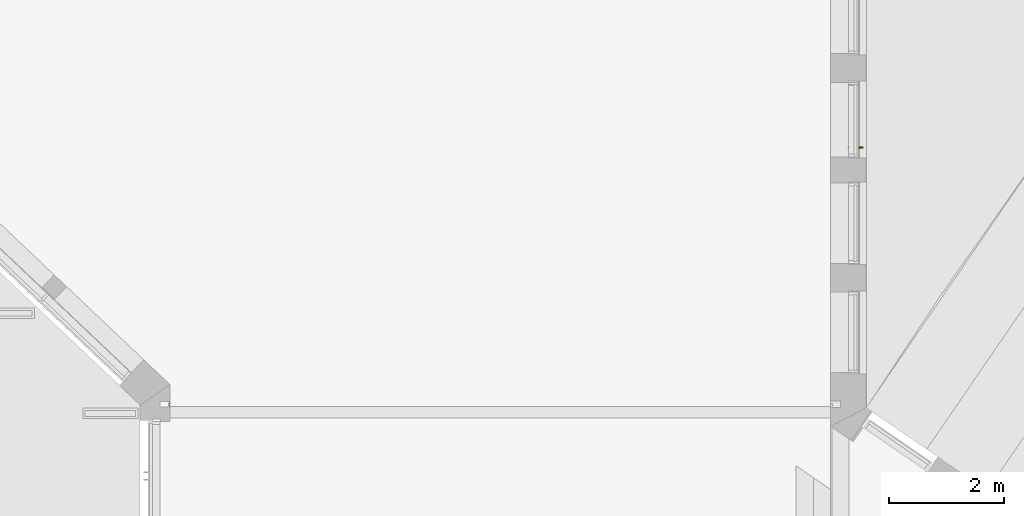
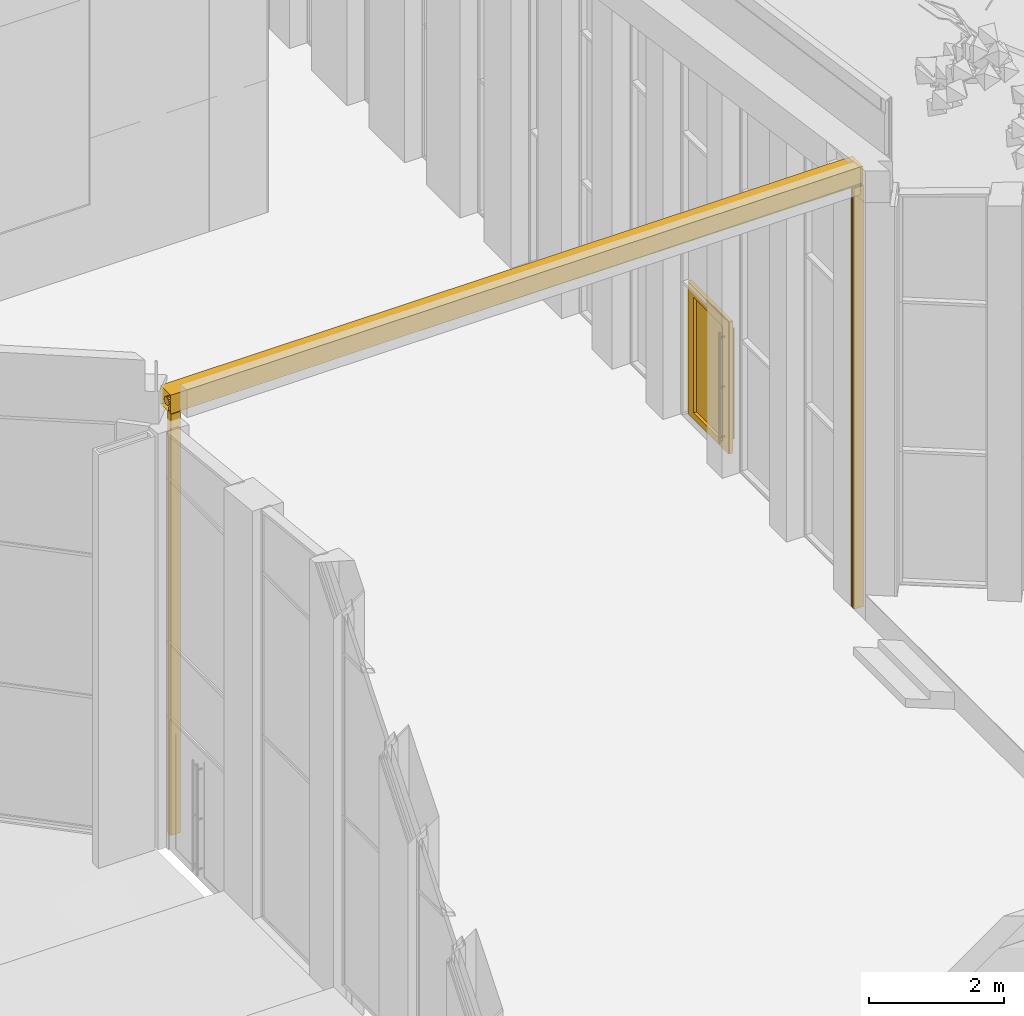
# One storey, part 159 of 246: 2 doors, 1 element without a shape of its own.
"""IFC2X3 building model written with IfcOpenShell, lengths in millimetres."""

from ifc_helpers import new_model, entity, si_unit, converted_unit, derived_unit, money_unit, direction, frame, origin_with_axes, place, context, subcontext, project, spatial, open_shell, faceted_brep, surface_model, material, material_list, type_object, element, aggregate, save


model = new_model("IFC2X3")

# Units and contexts
model_context = context("Model", 3, precision=0.01, world=origin_with_axes(), true_north=direction((0.0, 1.0)))
body_context = subcontext(model_context, "Body", "Model", "MODEL_VIEW")
ifc_project = project(units=[si_unit("LENGTHUNIT", "METRE", prefix="MILLI"), si_unit("AREAUNIT", "SQUARE_METRE"), si_unit("VOLUMEUNIT", "CUBIC_METRE"), converted_unit("PLANEANGLEUNIT", "DEGREE", entity("IfcPlaneAngleMeasure", 0.0174532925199), si_unit("PLANEANGLEUNIT", "RADIAN"), dimensions=[0, 0, 0, 0, 0, 0, 0]), si_unit("SOLIDANGLEUNIT", "STERADIAN"), money_unit("EUR"), converted_unit("TIMEUNIT", "Year", entity("IfcTimeMeasure", 31556926.0), si_unit("TIMEUNIT", "SECOND"), dimensions=[0, 0, 1, 0, 0, 0, 0]), si_unit("MASSUNIT", "GRAM", prefix="KILO"), si_unit("THERMODYNAMICTEMPERATUREUNIT", "DEGREE_CELSIUS"), si_unit("LUMINOUSINTENSITYUNIT", "LUMEN"), si_unit("ENERGYUNIT", "JOULE", prefix="MEGA"), derived_unit("THERMALCONDUCTANCEUNIT", [(si_unit("POWERUNIT", "WATT"), 1), (si_unit("LENGTHUNIT", "METRE"), -1), (si_unit("THERMODYNAMICTEMPERATUREUNIT", "KELVIN"), -1)]), derived_unit("SPECIFICHEATCAPACITYUNIT", [(si_unit("ENERGYUNIT", "JOULE"), 1), (si_unit("MASSUNIT", "GRAM", prefix="KILO"), -1), (si_unit("THERMODYNAMICTEMPERATUREUNIT", "KELVIN"), -1)]), derived_unit("MASSDENSITYUNIT", [(si_unit("MASSUNIT", "GRAM", prefix="KILO"), 1), (si_unit("VOLUMEUNIT", "CUBIC_METRE"), -1)])], contexts=[model_context])

# Site, building, storey
site_placement = place(None, origin_with_axes())
site = spatial("IfcSite", under=ifc_project, at=site_placement, Name="L.Koidula tn 11b", CompositionType="ELEMENT")
building_placement = place(site_placement, origin_with_axes())
building = spatial("IfcBuilding", under=site, at=building_placement, Name="Rakvere Riigigümnaasium", CompositionType="ELEMENT")
storey_placement = place(building_placement, origin_with_axes())
storey = spatial("IfcBuildingStorey", under=building, at=storey_placement, Name="1.korrus 0,00", CompositionType="ELEMENT", Elevation=0.0)

# Curtain wall, door
curtain_wall_type = type_object("IfcCurtainWallType", Name="Curtain Wall Type", PredefinedType="NOTDEFINED")
curtain_wall_placement = place(storey_placement, frame((47434.0004775, 49050.4555635, 0.0), z_axis=(0.0, 0.0, 1.0), x_axis=(1.0, 0.0, 0.0)))
curtain_wall = element("IfcCurtainWall", 1, at=curtain_wall_placement, inside=storey, type_object=curtain_wall_type, Name="KLF-07-03")
ifc_material_1 = material(Name="Alumiiniumprofiil (RAL 7021)")
ifc_material_2 = material(Name="Klaaspakett 3x")
ifc_material_3 = material(Name="teras_must")
ifc_material_4 = material(Name="GENERIC - STRUCTURAL")
ifc_material_list = material_list([ifc_material_1, ifc_material_2, ifc_material_3, ifc_material_4])
door_style_1 = type_object("IfcDoorStyle", Name="1226 x 2351 x 54", ConstructionType="NOTDEFINED", OperationType="NOTDEFINED", ParameterTakesPrecedence=False, Sizeable=False)
door_1_placement = place(curtain_wall_placement, frame((0.0, 121.999974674, 960.0), z_axis=(0.0, 0.0, 1.0), x_axis=(0.0, 1.0, 0.0)))
door_1 = element("IfcDoor", 2, at=door_1_placement, type_object=door_style_1, material=ifc_material_list, Name="KLF-07-VU-1", ObjectType="DOOR", context=body_context, shape_type="SurfaceModel", body=[
    surface_model("IfcShellBasedSurfaceModel", [(-721.999924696, 38.0, -960.0), (-721.999924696, 38.0, 1415.0), (-668.999924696, 38.0, 1362.0), (-668.999924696, 38.0, -960.0)], [open_shell([[[0, 1, 2, 3]]])]),
    surface_model("IfcShellBasedSurfaceModel", [(477.999968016, 38.0, 1415.0), (424.999968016, 38.0, 1362.0), (-668.999924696, 38.0, 1362.0), (-721.999924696, 38.0, 1415.0)], [open_shell([[[0, 1, 2, 3]]])]),
    surface_model("IfcShellBasedSurfaceModel", [(477.999968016, 38.0, -960.0), (424.999968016, 38.0, -960.0), (424.999968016, 38.0, 1362.0), (477.999968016, 38.0, 1415.0)], [open_shell([[[0, 1, 2, 3]]])]),
    faceted_brep([(-721.999924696, 38.0, -960.0), (-721.999924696, -37.0, -960.0), (-721.999924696, -37.0, 1415.0), (-721.999924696, 38.0, 1415.0), (-668.999924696, 38.0, -960.0), (-668.999924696, -37.0, -960.0), (-668.999924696, -37.0, 1362.0), (-668.999924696, 38.0, 1362.0)], [[[0, 1, 2, 3]], [[4, 5, 1, 0]], [[1, 5, 6, 2]], [[3, 2, 6, 7]], [[0, 3, 7, 4]], [[7, 6, 5, 4]]]),
    faceted_brep([(477.999968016, 38.0, 1415.0), (477.999968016, -37.0, 1415.0), (424.999968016, -37.0, 1362.0), (424.999968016, 38.0, 1362.0), (-721.999924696, 38.0, 1415.0), (-721.999924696, -37.0, 1415.0), (-668.999924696, -37.0, 1362.0), (-668.999924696, 38.0, 1362.0)], [[[0, 1, 2, 3]], [[4, 5, 1, 0]], [[1, 5, 6, 2]], [[3, 2, 6, 7]], [[0, 3, 7, 4]], [[7, 6, 5, 4]]]),
    faceted_brep([(477.999968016, 38.0, -960.0), (477.999968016, -37.0, -960.0), (424.999968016, -37.0, -960.0), (424.999968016, 38.0, -960.0), (477.999968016, 38.0, 1415.0), (477.999968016, -37.0, 1415.0), (424.999968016, -37.0, 1362.0), (424.999968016, 38.0, 1362.0)], [[[0, 1, 2, 3]], [[4, 5, 1, 0]], [[1, 5, 6, 2]], [[3, 2, 6, 7]], [[0, 3, 7, 4]], [[7, 6, 5, 4]]]),
    faceted_brep([(-734.999924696, 27.0, -960.0), (-734.999924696, -27.0, -960.0), (-734.999924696, -27.0, 1428.0), (-734.999924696, 27.0, 1428.0), (-721.999924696, 27.0, -960.0), (-721.999924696, -27.0, -960.0), (-721.999924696, -27.0, 1415.0), (-721.999924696, 27.0, 1415.0)], [[[0, 1, 2, 3]], [[4, 5, 1, 0]], [[1, 5, 6, 2]], [[3, 2, 6, 7]], [[0, 3, 7, 4]], [[7, 6, 5, 4]]]),
    faceted_brep([(-734.999924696, 27.0, 1428.0), (-734.999924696, -27.0, 1428.0), (490.999968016, -27.0, 1428.0), (490.999968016, 27.0, 1428.0), (-721.999924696, 27.0, 1415.0), (-721.999924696, -27.0, 1415.0), (477.999968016, -27.0, 1415.0), (477.999968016, 27.0, 1415.0)], [[[0, 1, 2, 3]], [[4, 5, 1, 0]], [[1, 5, 6, 2]], [[3, 2, 6, 7]], [[0, 3, 7, 4]], [[7, 6, 5, 4]]]),
    faceted_brep([(490.999968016, 27.0, 1428.0), (490.999968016, -27.0, 1428.0), (490.999968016, -27.0, -960.0), (490.999968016, 27.0, -960.0), (477.999968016, 27.0, 1415.0), (477.999968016, -27.0, 1415.0), (477.999968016, -27.0, -960.0), (477.999968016, 27.0, -960.0)], [[[0, 1, 2, 3]], [[4, 5, 1, 0]], [[1, 5, 6, 2]], [[3, 2, 6, 7]], [[0, 3, 7, 4]], [[7, 6, 5, 4]]]),
    faceted_brep([(305.999968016, 38.0, -841.0), (305.999968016, -37.0, -841.0), (305.999968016, -37.0, 1243.0), (305.999968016, 38.0, 1243.0), (424.999968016, 38.0, -960.0), (424.999968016, -37.0, -960.0), (424.999968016, -37.0, 1362.0), (424.999968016, 38.0, 1362.0)], [[[0, 1, 2, 3]], [[4, 5, 1, 0]], [[1, 5, 6, 2]], [[3, 2, 6, 7]], [[0, 3, 7, 4]], [[7, 6, 5, 4]]]),
    faceted_brep([(-668.999924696, 38.0, -960.0), (-668.999924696, -37.0, -960.0), (-668.999924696, -37.0, 1362.0), (-668.999924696, 38.0, 1362.0), (-549.999924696, 38.0, -841.0), (-549.999924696, -37.0, -841.0), (-549.999924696, -37.0, 1243.0), (-549.999924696, 38.0, 1243.0)], [[[0, 1, 2, 3]], [[4, 5, 1, 0]], [[1, 5, 6, 2]], [[3, 2, 6, 7]], [[0, 3, 7, 4]], [[7, 6, 5, 4]]]),
    faceted_brep([(-668.999924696, 38.0, -960.0), (-668.999924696, -37.0, -960.0), (-549.999924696, -37.0, -841.0), (-549.999924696, 38.0, -841.0), (424.999968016, 38.0, -960.0), (424.999968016, -37.0, -960.0), (305.999968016, -37.0, -841.0), (305.999968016, 38.0, -841.0)], [[[0, 1, 2, 3]], [[4, 5, 1, 0]], [[1, 5, 6, 2]], [[3, 2, 6, 7]], [[0, 3, 7, 4]], [[7, 6, 5, 4]]]),
    faceted_brep([(424.999968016, 38.0, 1362.0), (424.999968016, -37.0, 1362.0), (305.999968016, -37.0, 1243.0), (305.999968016, 38.0, 1243.0), (-668.999924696, 38.0, 1362.0), (-668.999924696, -37.0, 1362.0), (-549.999924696, -37.0, 1243.0), (-549.999924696, 38.0, 1243.0)], [[[0, 1, 2, 3]], [[4, 5, 1, 0]], [[1, 5, 6, 2]], [[3, 2, 6, 7]], [[0, 3, 7, 4]], [[7, 6, 5, 4]]]),
    faceted_brep([(305.999968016, -11.0, -841.0), (305.999968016, -27.0, -841.0), (-549.999924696, -27.0, -841.0), (-549.999924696, -11.0, -841.0), (305.999968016, -11.0, 1243.0), (305.999968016, -27.0, 1243.0), (-549.999924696, -27.0, 1243.0), (-549.999924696, -11.0, 1243.0)], [[[0, 1, 2, 3]], [[4, 5, 1, 0]], [[1, 5, 6, 2]], [[3, 2, 6, 7]], [[0, 3, 7, 4]], [[7, 6, 5, 4]]]),
    faceted_brep([(-616.990305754, -112.499999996, 1190.0), (-611.499924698, -107.009618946, 1190.0), (-611.499924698, -107.009618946, -810.0), (-616.990305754, -112.499999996, -810.0), (-618.999924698, -119.999999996, 1190.0), (-616.990305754, -127.499999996, 1190.0), (-611.499924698, -132.990381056, 1190.0), (-603.999924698, -134.999999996, 1190.0), (-596.499924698, -132.990381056, 1190.0), (-591.009543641, -127.499999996, 1190.0), (-588.999924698, -119.999999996, 1190.0), (-591.009543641, -112.499999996, 1190.0), (-596.499924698, -107.009618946, 1190.0), (-603.999924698, -104.999999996, 1190.0), (-603.999924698, -104.999999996, -810.0), (-618.999924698, -119.999999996, -810.0), (-596.499924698, -107.009618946, -810.0), (-591.009543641, -112.499999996, -810.0), (-588.999924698, -119.999999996, -810.0), (-591.009543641, -127.499999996, -810.0), (-596.499924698, -132.990381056, -810.0), (-603.999924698, -134.999999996, -810.0), (-611.499924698, -132.990381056, -810.0), (-616.990305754, -127.499999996, -810.0)], [[[0, 1, 2, 3]], [[0, 4, 5, 6, 7, 8, 9, 10, 11, 12, 13, 1]], [[1, 13, 14, 2]], [[15, 3, 2, 14, 16, 17, 18, 19, 20, 21, 22, 23]], [[4, 0, 3, 15]], [[4, 15, 23, 5]], [[6, 5, 23, 22]], [[6, 22, 21, 7]], [[8, 7, 21, 20]], [[9, 8, 20, 19]], [[10, 9, 19, 18]], [[17, 11, 10, 18]], [[12, 11, 17, 16]], [[13, 12, 16, 14]]]),
    faceted_brep([(-591.009543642, -120.0, 1097.5), (-591.009543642, -37.0, 1097.5), (-596.499924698, -37.0, 1102.99038105), (-596.499924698, -120.0, 1102.99038105), (-588.999924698, -37.0, 1090.0), (-588.999924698, -120.0, 1090.0), (-591.009543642, -37.0, 1082.5), (-596.499924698, -37.0, 1077.00961894), (-603.999924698, -37.0, 1075.0), (-611.499924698, -37.0, 1077.00961894), (-616.990305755, -37.0, 1082.5), (-618.999924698, -37.0, 1090.0), (-616.990305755, -37.0, 1097.5), (-611.499924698, -37.0, 1102.99038105), (-603.999924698, -37.0, 1105.0), (-603.999924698, -120.0, 1105.0), (-611.499924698, -120.0, 1102.99038105), (-616.990305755, -120.0, 1097.5), (-618.999924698, -120.0, 1090.0), (-616.990305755, -120.0, 1082.5), (-611.499924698, -120.0, 1077.00961894), (-603.999924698, -120.0, 1075.0), (-596.499924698, -120.0, 1077.00961894), (-591.009543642, -120.0, 1082.5)], [[[0, 1, 2, 3]], [[4, 1, 0, 5]], [[1, 4, 6, 7, 8, 9, 10, 11, 12, 13, 14, 2]], [[2, 14, 15, 3]], [[5, 0, 3, 15, 16, 17, 18, 19, 20, 21, 22, 23]], [[4, 5, 23, 6]], [[6, 23, 22, 7]], [[7, 22, 21, 8]], [[9, 8, 21, 20]], [[10, 9, 20, 19]], [[11, 10, 19, 18]], [[12, 11, 18, 17]], [[13, 12, 17, 16]], [[14, 13, 16, 15]]]),
    faceted_brep([(-616.99030576, -120.0, -717.500000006), (-616.99030576, -37.0, -717.500000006), (-611.499924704, -37.0, -722.990381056), (-611.499924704, -120.0, -722.990381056), (-618.999924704, -37.0, -710.000000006), (-618.999924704, -120.0, -710.000000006), (-616.99030576, -37.0, -702.500000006), (-611.499924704, -37.0, -697.009618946), (-603.999924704, -37.0, -695.000000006), (-596.499924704, -37.0, -697.009618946), (-591.009543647, -37.0, -702.500000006), (-588.999924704, -37.0, -710.000000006), (-591.009543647, -37.0, -717.500000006), (-596.499924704, -37.0, -722.990381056), (-603.999924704, -37.0, -725.000000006), (-603.999924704, -120.0, -725.000000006), (-596.499924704, -120.0, -722.990381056), (-591.009543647, -120.0, -717.500000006), (-588.999924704, -120.0, -710.000000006), (-591.009543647, -120.0, -702.500000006), (-596.499924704, -120.0, -697.009618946), (-603.999924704, -120.0, -695.000000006), (-611.499924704, -120.0, -697.009618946), (-616.99030576, -120.0, -702.500000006)], [[[0, 1, 2, 3]], [[4, 1, 0, 5]], [[1, 4, 6, 7, 8, 9, 10, 11, 12, 13, 14, 2]], [[2, 14, 15, 3]], [[5, 0, 3, 15, 16, 17, 18, 19, 20, 21, 22, 23]], [[4, 5, 23, 6]], [[6, 23, 22, 7]], [[7, 22, 21, 8]], [[9, 8, 21, 20]], [[10, 9, 20, 19]], [[11, 10, 19, 18]], [[12, 11, 18, 17]], [[13, 12, 17, 16]], [[14, 13, 16, 15]]]),
    faceted_brep([(-616.99030576, -120.0, 182.499999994), (-616.99030576, -37.0, 182.499999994), (-611.499924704, -37.0, 177.009618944), (-611.499924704, -120.0, 177.009618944), (-618.999924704, -37.0, 189.999999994), (-618.999924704, -120.0, 189.999999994), (-616.99030576, -37.0, 197.499999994), (-611.499924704, -37.0, 202.990381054), (-603.999924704, -37.0, 204.999999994), (-596.499924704, -37.0, 202.990381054), (-591.009543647, -37.0, 197.499999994), (-588.999924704, -37.0, 189.999999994), (-591.009543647, -37.0, 182.499999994), (-596.499924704, -37.0, 177.009618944), (-603.999924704, -37.0, 174.999999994), (-603.999924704, -120.0, 174.999999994), (-596.499924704, -120.0, 177.009618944), (-591.009543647, -120.0, 182.499999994), (-588.999924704, -120.0, 189.999999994), (-591.009543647, -120.0, 197.499999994), (-596.499924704, -120.0, 202.990381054), (-603.999924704, -120.0, 204.999999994), (-611.499924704, -120.0, 202.990381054), (-616.99030576, -120.0, 197.499999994)], [[[0, 1, 2, 3]], [[4, 1, 0, 5]], [[1, 4, 6, 7, 8, 9, 10, 11, 12, 13, 14, 2]], [[2, 14, 15, 3]], [[5, 0, 3, 15, 16, 17, 18, 19, 20, 21, 22, 23]], [[4, 5, 23, 6]], [[6, 23, 22, 7]], [[7, 22, 21, 8]], [[9, 8, 21, 20]], [[10, 9, 20, 19]], [[11, 10, 19, 18]], [[12, 11, 18, 17]], [[13, 12, 17, 16]], [[14, 13, 16, 15]]]),
    faceted_brep([(-616.990305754, 113.499999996, 1190.0), (-616.990305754, 113.499999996, -810.0), (-611.499924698, 108.009618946, -810.0), (-611.499924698, 108.009618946, 1190.0), (-618.999924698, 120.999999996, 1190.0), (-618.999924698, 120.999999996, -810.0), (-616.990305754, 128.499999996, -810.0), (-611.499924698, 133.990381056, -810.0), (-603.999924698, 135.999999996, -810.0), (-596.499924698, 133.990381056, -810.0), (-591.009543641, 128.499999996, -810.0), (-588.999924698, 120.999999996, -810.0), (-591.009543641, 113.499999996, -810.0), (-596.499924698, 108.009618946, -810.0), (-603.999924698, 105.999999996, -810.0), (-603.999924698, 105.999999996, 1190.0), (-596.499924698, 108.009618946, 1190.0), (-591.009543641, 113.499999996, 1190.0), (-588.999924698, 120.999999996, 1190.0), (-591.009543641, 128.499999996, 1190.0), (-596.499924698, 133.990381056, 1190.0), (-603.999924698, 135.999999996, 1190.0), (-611.499924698, 133.990381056, 1190.0), (-616.990305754, 128.499999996, 1190.0)], [[[0, 1, 2, 3]], [[4, 5, 1, 0]], [[5, 6, 7, 8, 9, 10, 11, 12, 13, 14, 2, 1]], [[3, 2, 14, 15]], [[0, 3, 15, 16, 17, 18, 19, 20, 21, 22, 23, 4]], [[4, 23, 6, 5]], [[22, 7, 6, 23]], [[22, 21, 8, 7]], [[20, 9, 8, 21]], [[19, 10, 9, 20]], [[18, 11, 10, 19]], [[12, 11, 18, 17]], [[16, 13, 12, 17]], [[15, 14, 13, 16]]]),
    faceted_brep([(-591.009543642, 121.0, 1097.5), (-596.499924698, 121.0, 1102.99038105), (-596.499924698, 38.0, 1102.99038105), (-591.009543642, 38.0, 1097.5), (-588.999924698, 121.0, 1090.0), (-591.009543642, 121.0, 1082.5), (-596.499924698, 121.0, 1077.00961894), (-603.999924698, 121.0, 1075.0), (-611.499924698, 121.0, 1077.00961894), (-616.990305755, 121.0, 1082.5), (-618.999924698, 121.0, 1090.0), (-616.990305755, 121.0, 1097.5), (-611.499924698, 121.0, 1102.99038105), (-603.999924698, 121.0, 1105.0), (-603.999924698, 38.0, 1105.0), (-611.499924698, 38.0, 1102.99038105), (-616.990305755, 38.0, 1097.5), (-618.999924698, 38.0, 1090.0), (-616.990305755, 38.0, 1082.5), (-611.499924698, 38.0, 1077.00961894), (-603.999924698, 38.0, 1075.0), (-596.499924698, 38.0, 1077.00961894), (-591.009543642, 38.0, 1082.5), (-588.999924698, 38.0, 1090.0)], [[[0, 1, 2, 3]], [[4, 5, 6, 7, 8, 9, 10, 11, 12, 13, 1, 0]], [[2, 1, 13, 14]], [[3, 2, 14, 15, 16, 17, 18, 19, 20, 21, 22, 23]], [[23, 4, 0, 3]], [[23, 22, 5, 4]], [[22, 21, 6, 5]], [[21, 20, 7, 6]], [[19, 8, 7, 20]], [[18, 9, 8, 19]], [[17, 10, 9, 18]], [[16, 11, 10, 17]], [[15, 12, 11, 16]], [[14, 13, 12, 15]]]),
    faceted_brep([(-616.99030576, 121.0, -717.500000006), (-611.499924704, 121.0, -722.990381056), (-611.499924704, 38.0, -722.990381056), (-616.99030576, 38.0, -717.500000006), (-618.999924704, 121.0, -710.000000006), (-616.99030576, 121.0, -702.500000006), (-611.499924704, 121.0, -697.009618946), (-603.999924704, 121.0, -695.000000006), (-596.499924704, 121.0, -697.009618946), (-591.009543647, 121.0, -702.500000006), (-588.999924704, 121.0, -710.000000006), (-591.009543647, 121.0, -717.500000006), (-596.499924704, 121.0, -722.990381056), (-603.999924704, 121.0, -725.000000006), (-603.999924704, 38.0, -725.000000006), (-596.499924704, 38.0, -722.990381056), (-591.009543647, 38.0, -717.500000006), (-588.999924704, 38.0, -710.000000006), (-591.009543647, 38.0, -702.500000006), (-596.499924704, 38.0, -697.009618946), (-603.999924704, 38.0, -695.000000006), (-611.499924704, 38.0, -697.009618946), (-616.99030576, 38.0, -702.500000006), (-618.999924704, 38.0, -710.000000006)], [[[0, 1, 2, 3]], [[4, 5, 6, 7, 8, 9, 10, 11, 12, 13, 1, 0]], [[2, 1, 13, 14]], [[3, 2, 14, 15, 16, 17, 18, 19, 20, 21, 22, 23]], [[23, 4, 0, 3]], [[23, 22, 5, 4]], [[22, 21, 6, 5]], [[21, 20, 7, 6]], [[19, 8, 7, 20]], [[18, 9, 8, 19]], [[17, 10, 9, 18]], [[16, 11, 10, 17]], [[15, 12, 11, 16]], [[14, 13, 12, 15]]]),
    faceted_brep([(-616.99030576, 121.0, 182.499999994), (-611.499924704, 121.0, 177.009618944), (-611.499924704, 38.0, 177.009618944), (-616.99030576, 38.0, 182.499999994), (-618.999924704, 121.0, 189.999999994), (-616.99030576, 121.0, 197.499999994), (-611.499924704, 121.0, 202.990381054), (-603.999924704, 121.0, 204.999999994), (-596.499924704, 121.0, 202.990381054), (-591.009543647, 121.0, 197.499999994), (-588.999924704, 121.0, 189.999999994), (-591.009543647, 121.0, 182.499999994), (-596.499924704, 121.0, 177.009618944), (-603.999924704, 121.0, 174.999999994), (-603.999924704, 38.0, 174.999999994), (-596.499924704, 38.0, 177.009618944), (-591.009543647, 38.0, 182.499999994), (-588.999924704, 38.0, 189.999999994), (-591.009543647, 38.0, 197.499999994), (-596.499924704, 38.0, 202.990381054), (-603.999924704, 38.0, 204.999999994), (-611.499924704, 38.0, 202.990381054), (-616.99030576, 38.0, 197.499999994), (-618.999924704, 38.0, 189.999999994)], [[[0, 1, 2, 3]], [[4, 5, 6, 7, 8, 9, 10, 11, 12, 13, 1, 0]], [[2, 1, 13, 14]], [[3, 2, 14, 15, 16, 17, 18, 19, 20, 21, 22, 23]], [[23, 4, 0, 3]], [[23, 22, 5, 4]], [[22, 21, 6, 5]], [[21, 20, 7, 6]], [[19, 8, 7, 20]], [[18, 9, 8, 19]], [[17, 10, 9, 18]], [[16, 11, 10, 17]], [[15, 12, 11, 16]], [[14, 13, 12, 15]]]),
])
aggregate(curtain_wall, [door_1])

# Door
ifc_material_5 = material(Name="Steel - Stainless")
door_style_2 = type_object("IfcDoorStyle", Name="TTkardin-01(3)", ConstructionType="NOTDEFINED", OperationType="NOTDEFINED", ParameterTakesPrecedence=False, Sizeable=False)
door_2_placement = place(storey_placement, frame((35340.0176652, 44151.5100711, 0.0), z_axis=(0.0, 0.0, 1.0), x_axis=(-1.0, 0.0, 0.0)))
element("IfcDoor", 3, at=door_2_placement, inside=storey, type_object=door_style_2, material=ifc_material_5, Name="TTK-01", ObjectType="DOOR", context=body_context, shape_type="Brep", body=[
    faceted_brep([(-11695.6440205, 77.7137632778, 0.0), (-11695.6440205, 77.7137632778, 7600.0), (-11694.1119316, 78.9993384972, 7600.0), (-11694.1119316, 78.9993384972, 0.0), (-11676.9628123, 55.45036624, 0.0), (-11676.9628123, 55.45036624, 7600.0), (-11661.2664351, 55.45036624, 7600.0), (-11661.2664351, 96.45036624, 7600.0), (-11663.2664351, 96.45036624, 7600.0), (-11663.2664351, 57.45036624, 7600.0), (-11676.0663102, 57.45036624, 7600.0), (-11676.0663102, 57.45036624, 0.0), (-11663.2664351, 57.45036624, 0.0), (-11663.2664351, 96.45036624, 0.0), (-11661.2664351, 96.45036624, 0.0), (-11661.2664351, 55.45036624, 0.0)], [[[0, 1, 2, 3]], [[4, 5, 1, 0]], [[1, 5, 6, 7, 8, 9, 10, 2]], [[2, 10, 11, 3]], [[3, 11, 12, 13, 14, 15, 4, 0]], [[4, 15, 6, 5]], [[14, 7, 6, 15]], [[8, 7, 14, 13]], [[12, 9, 8, 13]], [[11, 10, 9, 12]]]),
    faceted_brep([(-11821.2664351, 100.0, 7600.0), (-11667.7135267, 100.0, 7600.0), (-11667.7135267, 100.0, 0.0), (-11821.2664351, 100.0, 0.0), (-11819.2664351, 98.0, 7600.0), (-11665.2664351, 98.0, 7600.0), (-11665.2664351, 75.0, 7600.0), (-11663.2664351, 75.0, 7600.0), (-11663.2664351, 100.0, 7600.0), (-11821.2664351, 65.8684388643, 7600.0), (-11821.2664351, 0.0, 7600.0), (-11663.2664351, 0.0, 7600.0), (-11663.2664351, 4.50000000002, 7600.0), (-11663.2664351, 25.0, 7600.0), (-11665.2664351, 25.0, 7600.0), (-11665.2664351, 2.00000000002, 7600.0), (-11819.2664351, 2.00000000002, 7600.0), (-11663.2664351, 100.0, 0.0), (-11663.2664351, 75.0, 0.0), (-11665.2664351, 75.0, 0.0), (-11665.2664351, 98.0, 0.0), (-11819.2664351, 98.0, 0.0), (-11819.2664351, 2.00000000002, 0.0), (-11665.2664351, 2.00000000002, 0.0), (-11665.2664351, 25.0, 0.0), (-11663.2664351, 25.0, 0.0), (-11663.2664351, 4.50000000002, 0.0), (-11663.2664351, 0.0, 0.0), (-11821.2664351, 0.0, 0.0), (-11821.2664351, 65.8684388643, 0.0)], [[[0, 1, 2, 3]], [[4, 5, 6, 7, 8, 1, 0, 9, 10, 11, 12, 13, 14, 15, 16]], [[2, 1, 8, 17]], [[3, 2, 17, 18, 19, 20, 21, 22, 23, 24, 25, 26, 27, 28, 29]], [[3, 29, 9, 0]], [[21, 20, 5, 4]], [[20, 19, 6, 5]], [[18, 7, 6, 19]], [[17, 8, 7, 18]], [[29, 28, 10, 9]], [[28, 27, 11, 10]], [[12, 11, 27, 26]], [[25, 13, 12, 26]], [[14, 13, 25, 24]], [[24, 23, 15, 14]], [[16, 15, 23, 22]], [[4, 16, 22, 21]]]),
    faceted_brep([(-11695.6440205, 23.2366029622, 0.0), (-11695.6440205, 23.2366029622, 7600.0), (-11676.9628123, 45.5, 7600.0), (-11676.9628123, 45.5, 0.0), (-11694.1119316, 21.9510277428, 0.0), (-11694.1119316, 21.9510277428, 7600.0), (-11676.0663102, 43.5, 7600.0), (-11663.2664351, 43.5, 7600.0), (-11663.2664351, 25.0, 7600.0), (-11663.2664351, 4.5, 7600.0), (-11661.2664351, 4.5, 7600.0), (-11661.2664351, 45.5, 7600.0), (-11661.2664351, 45.5, 0.0), (-11661.2664351, 4.5, 0.0), (-11663.2664351, 4.5, 0.0), (-11663.2664351, 25.0, 0.0), (-11663.2664351, 43.5, 0.0), (-11676.0663102, 43.5, 0.0)], [[[0, 1, 2, 3]], [[4, 5, 1, 0]], [[1, 5, 6, 7, 8, 9, 10, 11, 2]], [[2, 11, 12, 3]], [[3, 12, 13, 14, 15, 16, 17, 4, 0]], [[5, 4, 17, 6]], [[16, 7, 6, 17]], [[16, 15, 8, 7]], [[15, 14, 9, 8]], [[13, 10, 9, 14]], [[11, 10, 13, 12]]]),
    faceted_brep([(-1.266435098, 46.4535815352, 7644.51657485), (-11821.2664351, 46.4535815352, 7644.51657485), (-11821.2664351, 27.1739698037, 7620.82560546), (-1.266435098, 27.1739698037, 7620.82560546), (-1.266435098, 46.4535815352, 7650.6061417), (-11821.2664351, 46.4535815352, 7650.6061417), (-11821.2664351, 51.8943580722, 7650.6061417), (-11821.2664351, 51.8943580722, 7644.51657485), (-11821.2664351, 71.1123995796, 7620.82560546), (-11821.2664351, 71.1123995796, 7600.0), (-11821.2664351, 27.1739698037, 7600.0), (-1.266435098, 27.1739698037, 7600.0), (-1.266435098, 71.1123995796, 7600.0), (-1.266435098, 71.1123995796, 7620.82560546), (-1.266435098, 51.8943580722, 7644.51657485), (-1.266435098, 51.8943580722, 7650.6061417)], [[[0, 1, 2, 3]], [[4, 5, 1, 0]], [[2, 1, 5, 6, 7, 8, 9, 10]], [[3, 2, 10, 11]], [[11, 12, 13, 14, 15, 4, 0, 3]], [[15, 6, 5, 4]], [[14, 7, 6, 15]], [[13, 8, 7, 14]], [[12, 9, 8, 13]], [[10, 9, 12, 11]]]),
    faceted_brep([(-1.266435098, -107.322626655, 7761.92092549), (-11821.2664351, -107.322626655, 7761.92092549), (-11821.2664351, -101.850552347, 7734.41095022), (-1.266435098, -101.850552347, 7734.41095022), (-1.266435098, -101.850552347, 7789.43090076), (-11821.2664351, -101.850552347, 7789.43090076), (-11821.2664351, -86.2674031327, 7812.75273168), (-11821.2664351, -62.9455722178, 7828.33588089), (-11821.2664351, -35.4355969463, 7833.8079552), (-11821.2664351, -7.92562167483, 7828.33588089), (-11821.2664351, 15.3962092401, 7812.75273168), (-11821.2664351, 30.9793584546, 7789.43090076), (-11821.2664351, 36.4514327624, 7761.92092549), (-11821.2664351, 30.9793584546, 7734.41095022), (-11821.2664351, 15.3962092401, 7711.0891193), (-11821.2664351, -7.92562167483, 7695.50597009), (-11821.2664351, -35.4355969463, 7690.03389578), (-11821.2664351, -62.9455722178, 7695.50597009), (-11821.2664351, -86.2674031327, 7711.0891193), (-1.266435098, -86.2674031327, 7711.0891193), (-1.266435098, -62.9455722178, 7695.50597009), (-1.266435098, -35.4355969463, 7690.03389578), (-1.266435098, -7.92562167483, 7695.50597009), (-1.266435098, 15.3962092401, 7711.0891193), (-1.266435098, 30.9793584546, 7734.41095022), (-1.266435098, 36.4514327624, 7761.92092549), (-1.266435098, 30.9793584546, 7789.43090076), (-1.266435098, 15.3962092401, 7812.75273168), (-1.266435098, -7.92562167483, 7828.33588089), (-1.266435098, -35.4355969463, 7833.8079552), (-1.266435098, -62.9455722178, 7828.33588089), (-1.266435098, -86.2674031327, 7812.75273168)], [[[0, 1, 2, 3]], [[4, 5, 1, 0]], [[1, 5, 6, 7, 8, 9, 10, 11, 12, 13, 14, 15, 16, 17, 18, 2]], [[3, 2, 18, 19]], [[4, 0, 3, 19, 20, 21, 22, 23, 24, 25, 26, 27, 28, 29, 30, 31]], [[31, 6, 5, 4]], [[30, 7, 6, 31]], [[29, 8, 7, 30]], [[28, 9, 8, 29]], [[27, 10, 9, 28]], [[26, 11, 10, 27]], [[25, 12, 11, 26]], [[24, 13, 12, 25]], [[23, 14, 13, 24]], [[22, 15, 14, 23]], [[21, 16, 15, 22]], [[20, 17, 16, 21]], [[19, 18, 17, 20]]]),
    faceted_brep([(-158.0, 96.45036624, 0.0), (-158.0, 96.45036624, 7600.0), (-158.0, 57.45036624, 7600.0), (-158.0, 57.45036624, 0.0), (-160.0, 96.45036624, 0.0), (-160.0, 96.45036624, 7600.0), (-160.0, 55.45036624, 7600.0), (-144.303622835, 55.45036624, 7600.0), (-125.622414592, 77.7137632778, 7600.0), (-127.154503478, 78.9993384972, 7600.0), (-145.200124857, 57.45036624, 7600.0), (-145.200124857, 57.45036624, 0.0), (-127.154503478, 78.9993384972, 0.0), (-125.622414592, 77.7137632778, 0.0), (-144.303622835, 55.45036624, 0.0), (-160.0, 55.45036624, 0.0)], [[[0, 1, 2, 3]], [[0, 4, 5, 1]], [[6, 7, 8, 9, 10, 2, 1, 5]], [[3, 2, 10, 11]], [[3, 11, 12, 13, 14, 15, 4, 0]], [[15, 6, 5, 4]], [[15, 14, 7, 6]], [[14, 13, 8, 7]], [[9, 8, 13, 12]], [[12, 11, 10, 9]]]),
    faceted_brep([(-160.0, 45.5, 0.0), (-160.0, 4.5, 0.0), (-160.0, 4.5, 7600.0), (-160.0, 45.5, 7600.0), (-144.303622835, 45.5, 0.0), (-125.622414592, 23.2366029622, 0.0), (-127.154503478, 21.9510277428, 0.0), (-145.200124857, 43.5, 0.0), (-158.0, 43.5, 0.0), (-158.0, 25.0, 0.0), (-158.0, 4.5, 0.0), (-158.0, 4.5, 7600.0), (-158.0, 25.0, 7600.0), (-158.0, 43.5, 7600.0), (-145.200124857, 43.5, 7600.0), (-127.154503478, 21.9510277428, 7600.0), (-125.622414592, 23.2366029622, 7600.0), (-144.303622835, 45.5, 7600.0)], [[[0, 1, 2, 3]], [[0, 4, 5, 6, 7, 8, 9, 10, 1]], [[1, 10, 11, 2]], [[2, 11, 12, 13, 14, 15, 16, 17, 3]], [[3, 17, 4, 0]], [[17, 16, 5, 4]], [[5, 16, 15, 6]], [[7, 6, 15, 14]], [[8, 7, 14, 13]], [[13, 12, 9, 8]], [[12, 11, 10, 9]]]),
    faceted_brep([(-1.266435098, -212.938166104, 7940.0), (-11821.2664351, -212.938166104, 7940.0), (-11821.2664351, -212.938166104, 7600.0), (-1.266435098, -212.938166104, 7600.0), (-1.266435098, 87.061833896, 7940.0), (-11821.2664351, 87.061833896, 7940.0), (-11821.2664351, 87.061833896, 7640.0), (-11821.2664351, 86.0599487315, 7640.0), (-11821.2664351, 86.0642785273, 7939.0), (-11821.2664351, -212.085951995, 7939.0), (-11821.2664351, -212.085951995, 7601.0), (-11821.2664351, 18.0742391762, 7601.0), (-11821.2664351, 18.0542522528, 7684.00062826), (-11821.2664351, 19.061833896, 7683.99996495), (-11821.2664351, 19.061833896, 7600.0), (-1.266435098, 19.061833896, 7600.0), (-1.266435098, 19.061833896, 7683.99996495), (-1.266435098, 18.0542522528, 7684.00062826), (-1.266435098, 18.0742391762, 7601.0), (-1.266435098, -212.085951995, 7601.0), (-1.266435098, -212.085951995, 7939.0), (-1.266435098, 86.0642785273, 7939.0), (-1.266435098, 86.0593694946, 7600.0), (-1.266435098, 87.061833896, 7600.0)], [[[0, 1, 2, 3]], [[4, 5, 1, 0]], [[1, 5, 6, 7, 8, 9, 10, 11, 12, 13, 14, 2]], [[2, 14, 15, 3]], [[3, 15, 16, 17, 18, 19, 20, 21, 22, 23, 4, 0]], [[23, 6, 5, 4]], [[22, 7, 6, 23]], [[21, 8, 7, 22]], [[20, 9, 8, 21]], [[19, 10, 9, 20]], [[18, 11, 10, 19]], [[17, 12, 11, 18]], [[16, 13, 12, 17]], [[15, 14, 13, 16]]]),
    faceted_brep([(-158.0, 75.0, 0.0), (-158.0, 75.0, 7600.0), (-158.0, 100.0, 7600.0), (-158.0, 100.0, 0.0), (-156.0, 75.0, 0.0), (-156.0, 75.0, 7600.0), (-156.0, 98.0, 7600.0), (-2.0, 98.0, 7600.0), (-2.0, 2.00000000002, 7600.0), (-156.0, 2.00000000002, 7600.0), (-156.0, 25.0, 7600.0), (-158.0, 25.0, 7600.0), (-158.0, 4.50000000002, 7600.0), (-158.0, 0.0, 7600.0), (0.0, 0.0, 7600.0), (0.0, 65.8684388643, 7600.0), (0.0, 100.0, 7600.0), (-153.552908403, 100.0, 7600.0), (-153.552908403, 100.0, 0.0), (0.0, 100.0, 0.0), (0.0, 65.8684388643, 0.0), (0.0, 0.0, 0.0), (-158.0, 0.0, 0.0), (-158.0, 4.50000000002, 0.0), (-158.0, 25.0, 0.0), (-156.0, 25.0, 0.0), (-156.0, 2.00000000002, 0.0), (-2.0, 2.00000000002, 0.0), (-2.0, 98.0, 0.0), (-156.0, 98.0, 0.0)], [[[0, 1, 2, 3]], [[4, 5, 1, 0]], [[1, 5, 6, 7, 8, 9, 10, 11, 12, 13, 14, 15, 16, 17, 2]], [[2, 17, 18, 3]], [[0, 3, 18, 19, 20, 21, 22, 23, 24, 25, 26, 27, 28, 29, 4]], [[29, 6, 5, 4]], [[28, 7, 6, 29]], [[28, 27, 8, 7]], [[8, 27, 26, 9]], [[10, 9, 26, 25]], [[24, 11, 10, 25]], [[23, 12, 11, 24]], [[22, 13, 12, 23]], [[22, 21, 14, 13]], [[15, 14, 21, 20]], [[16, 15, 20, 19]], [[17, 16, 19, 18]]]),
])

save(model, "model.ifc")
